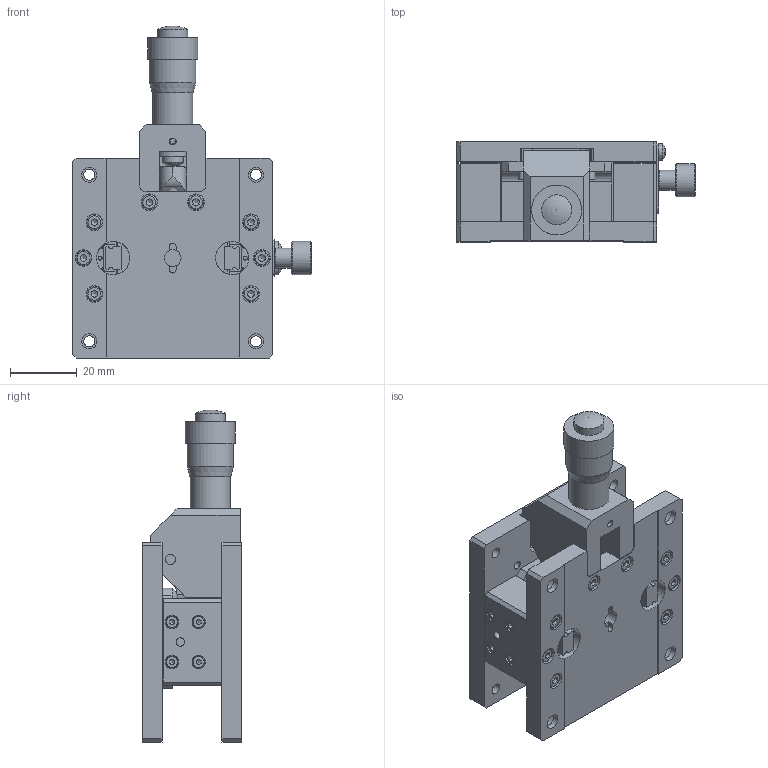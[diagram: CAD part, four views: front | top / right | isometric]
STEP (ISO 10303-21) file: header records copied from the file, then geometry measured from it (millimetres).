
FILE_DESCRIPTION (( 'STEP AP203' ), '1' );
FILE_NAME ('BLBZ60.STEP', '2024-07-08T06:17:49', ( 'Windows User' ), ( 'P R C' ), 'SwSTEP 2.0', 'SolidWorks 2024', '' );
FILE_SCHEMA (( 'CONFIG_CONTROL_DESIGN' ));
Products named in the file (1): BLBZ60
Bounding box: 71.6 x 30 x 99.65 mm (x, y, z)
Volume: 70760.6 mm3; surface area: 46173.6 mm2
Topology: 48 solids, 48 shells, 1369 faces, 3311 edges, 2125 vertices
Faces by surface type: plane 889, cylinder 330, cone 95, torus 32, bspline 19, sphere 4
Full cylindrical faces by diameter (mm): 1.2 x4, 1.567 x8, 1.6 x4, 2 x11, 2.05 x14, 2.4 x12, 2.5 x26, 2.9 x10, 3 x9, 3.3 x4, 3.4 x4, 3.8 x11, 4 x9, 4.2 x4, 4.5 x12, 5 x11, 5.5 x4, 6 x6, 6.3 x1, 6.35 x3, 8 x4, 8.5 x1, 9 x1, 9.5 x2, 10 x3, 12 x1, 13.6 x1, 14 x1, 15 x1
Entity records: 40221 total; most frequent: CARTESIAN_POINT 9170, DIRECTION 6445, ORIENTED_EDGE 5862, EDGE_CURVE 2931, AXIS2_PLACEMENT_3D 2273, VERTEX_POINT 2053, VECTOR 1899, LINE 1899
